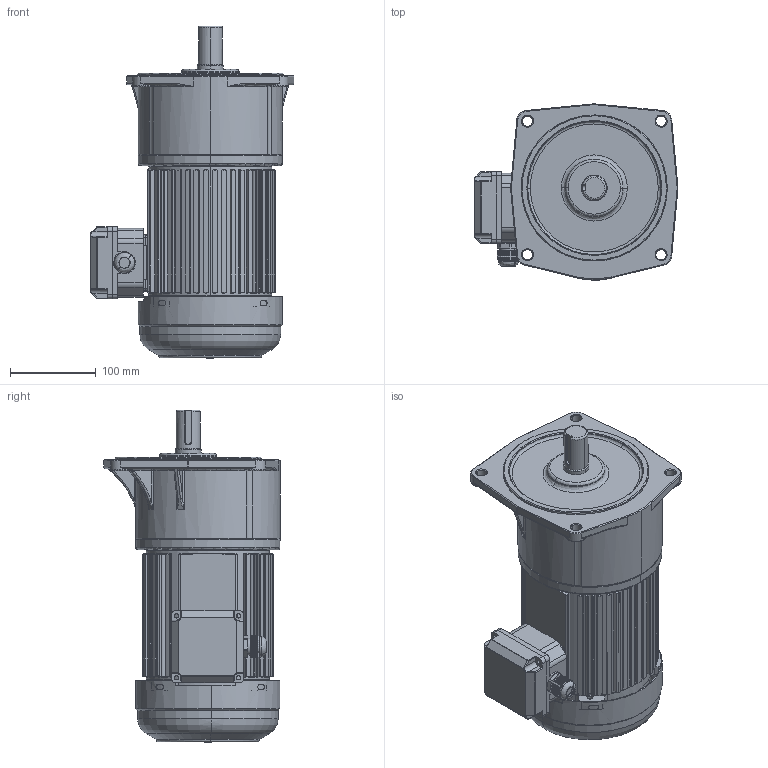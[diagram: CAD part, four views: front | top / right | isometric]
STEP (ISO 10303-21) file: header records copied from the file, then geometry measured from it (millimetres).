
FILE_DESCRIPTION (( 'STEP AP203' ), '1' );
FILE_NAME ('750W饜3#湍价陬蕾宒.STEP', '2020-04-17T07:20:08', ( '' ), ( '' ), 'SwSTEP 2.0', 'SolidWorks 2019', '' );
FILE_SCHEMA (( 'CONFIG_CONTROL_DESIGN' ));
Length unit declared in the file: millimetre
Products named in the file (5): 湍价陬諉盄碟裔; 750W饜3#湍价陬蕾宒; 750W棠憤迖殤; 750W价陬瑞欶; 750W饜3#蕾宒
Assembly tree (4 placements, depth 2):
  750W饜3#湍价陬蕾宒
    750W饜3#蕾宒
    750W棠憤迖殤
    750W价陬瑞欶
    湍价陬諉盄碟裔
Bounding box: 237.48 x 204.98 x 386.5 mm (x, y, z)
Volume: 341621.7 mm3; surface area: 689445.2 mm2
Topology: 3 solids, 10 shells, 2650 faces, 6970 edges, 4404 vertices
Faces by surface type: plane 993, cylinder 798, bspline 531, torus 175, cone 141, sphere 12
Entity records: 117586 total; most frequent: CARTESIAN_POINT 57674, ORIENTED_EDGE 13908, DIRECTION 10121, EDGE_CURVE 6956, VERTEX_POINT 4404, AXIS2_PLACEMENT_3D 3587, EDGE_LOOP 3002, LINE 2947
